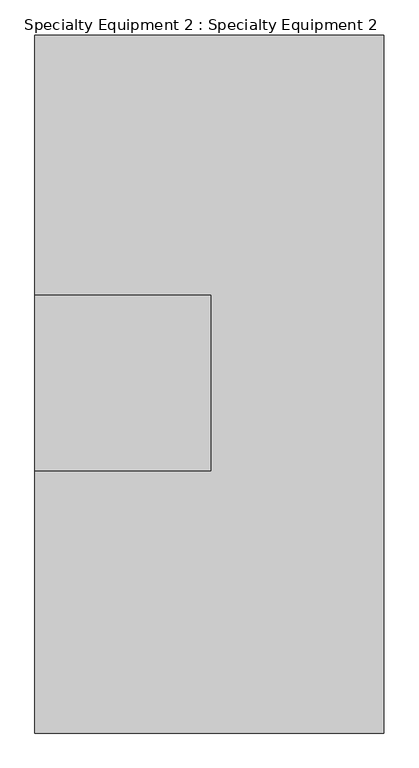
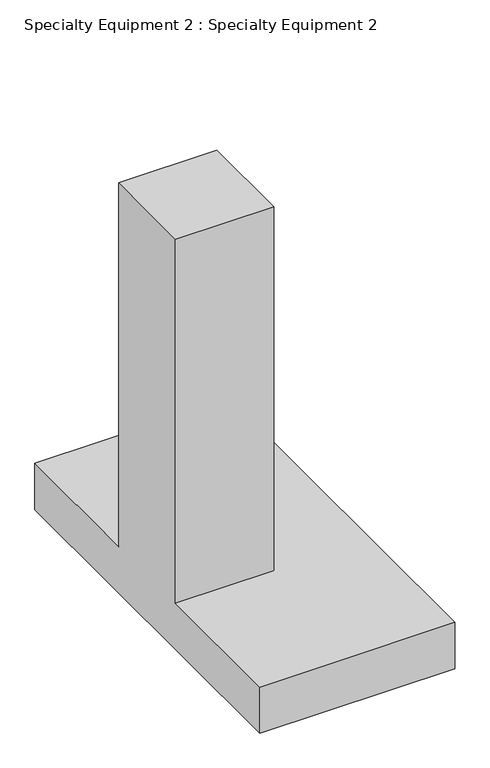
"""IFC4 building model written with IfcOpenShell, lengths in millimetres: proxy geometry, Specialty Equipment 2 : Specialty Equipment 2."""

from ifc_helpers import new_model, si_unit, origin, place, context, project, spatial, faceted_brep, source, transform, mapped, element, save


def specialty_equipment_2_specialty_equipment_2_63d3368c(model_context):
    return source(origin(), model_context, "Body", "Brep", [
        faceted_brep([(1803.4, 6092.8036682, 5257.8), (1803.4, 7108.8036682, 5257.8), (1295.4, 7108.8036682, 5257.8), (1295.4, 6729.8492267, 5257.8), (1550.9843878, 6729.8492267, 5257.8), (1550.9843878, 6474.0841187, 5257.8), (1295.4, 6474.0841187, 5257.8), (1295.4, 6092.8036682, 5257.8), (1803.4, 6092.8036682, 5130.8), (1295.4, 6092.8036682, 5130.8), (1295.4, 7108.8036682, 5130.8), (1803.4, 7108.8036682, 5130.8), (1295.4, 6474.0841187, 6261.1), (1295.4, 6729.8492267, 6261.1), (1550.9843878, 6474.0841187, 6261.1), (1550.9843878, 6729.8492267, 6261.1)], [[[0, 1, 2, 3, 4, 5, 6, 7]], [[8, 9, 10, 11]], [[0, 7, 9, 8]], [[10, 9, 7, 6, 12, 13, 3, 2]], [[2, 1, 11, 10]], [[1, 0, 8, 11]], [[14, 15, 13, 12]], [[15, 14, 5, 4]], [[13, 15, 4, 3]], [[14, 12, 6, 5]]]),
    ])


if __name__ == "__main__":
    model = new_model("IFC4")
    model_context = context("Model", 3, world=origin())
    ifc_project = project(units=[si_unit("LENGTHUNIT", "METRE", prefix="MILLI")], contexts=[model_context])
    site = spatial("IfcSite", under=ifc_project)
    building = spatial("IfcBuilding", under=site)
    placement = place(None, origin())
    specialty_equipment_2_specialty_equipment_2_shape = specialty_equipment_2_specialty_equipment_2_63d3368c(model_context)
    element("IfcBuildingElementProxy", 1, Name="Specialty Equipment 2 : Specialty Equipment 2", ObjectType="Specialty Equipment 2 : Specialty Equipment 2", at=placement, inside=building, context=model_context, shape_type="MappedRepresentation", body=[
        mapped(specialty_equipment_2_specialty_equipment_2_shape, transform((0.0, 0.0, 0.0), x_axis=(1.0, 0.0, 0.0), y_axis=(0.0, 1.0, 0.0), z_axis=(0.0, 0.0, 1.0))),
    ])
    save(model, "model.ifc")
